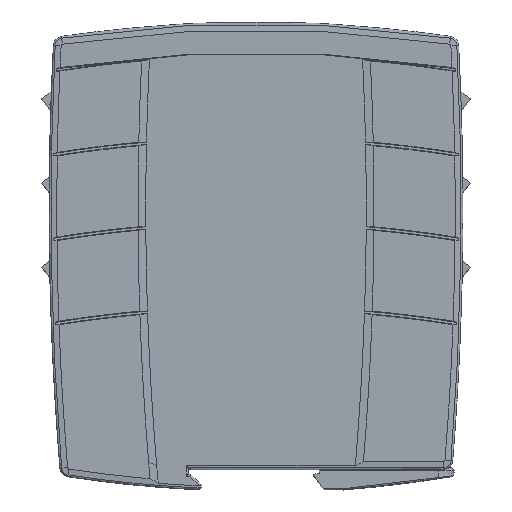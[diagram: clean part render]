
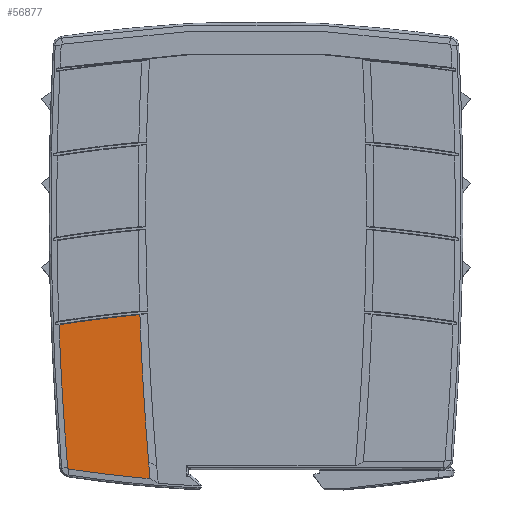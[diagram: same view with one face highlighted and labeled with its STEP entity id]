
A CAD part, top view. The second image highlights one B-rep face of the part: STEP entity #56877.
In plain terms, the highlighted planar face has unit normal (0, 0, 1).
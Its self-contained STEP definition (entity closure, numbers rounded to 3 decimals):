
#126=ELLIPSE('',#60365,780.372,777.);
#129=ELLIPSE('',#60370,780.372,777.);
#131=ELLIPSE('',#60373,324.402,323.);
#190=ELLIPSE('',#60461,332.688,331.25);
#191=ELLIPSE('',#60463,801.463,798.);
#192=ELLIPSE('',#60464,0.402,0.4);
#6280=FACE_OUTER_BOUND('',#9317,.T.);
#9317=EDGE_LOOP('',(#45416,#45417,#45418,#45419,#45420,#45421));
#27227=VERTEX_POINT('',#88247);
#27229=VERTEX_POINT('',#88250);
#27232=VERTEX_POINT('',#88263);
#27233=VERTEX_POINT('',#88268);
#27285=VERTEX_POINT('',#88583);
#27286=VERTEX_POINT('',#88587);
#33762=EDGE_CURVE('',#27229,#27227,#126,.T.);
#33767=EDGE_CURVE('',#27227,#27232,#129,.T.);
#33769=EDGE_CURVE('',#27229,#27233,#131,.T.);
#33862=EDGE_CURVE('',#27285,#27232,#190,.T.);
#33863=EDGE_CURVE('',#27286,#27285,#191,.T.);
#33864=EDGE_CURVE('',#27233,#27286,#192,.T.);
#45416=ORIENTED_EDGE('',*,*,#33767,.T.);
#45417=ORIENTED_EDGE('',*,*,#33862,.F.);
#45418=ORIENTED_EDGE('',*,*,#33863,.F.);
#45419=ORIENTED_EDGE('',*,*,#33864,.F.);
#45420=ORIENTED_EDGE('',*,*,#33769,.F.);
#45421=ORIENTED_EDGE('',*,*,#33762,.T.);
#54282=PLANE('',#60462);
#56877=ADVANCED_FACE('',(#6280),#54282,.T.);
#60365=AXIS2_PLACEMENT_3D('',#88251,#70082,#70083);
#60370=AXIS2_PLACEMENT_3D('',#88265,#70092,#70093);
#60373=AXIS2_PLACEMENT_3D('',#88269,#70098,#70099);
#60461=AXIS2_PLACEMENT_3D('',#88585,#70291,#70292);
#60462=AXIS2_PLACEMENT_3D('',#88586,#70293,#70294);
#60463=AXIS2_PLACEMENT_3D('',#88588,#70295,#70296);
#60464=AXIS2_PLACEMENT_3D('',#88589,#70297,#70298);
#70082=DIRECTION('center_axis',(0.,0.,
-1.));
#70083=DIRECTION('ref_axis',(0.,1.,0.));
#70092=DIRECTION('center_axis',(0.,0.,
-1.));
#70093=DIRECTION('ref_axis',(0.,1.,0.));
#70098=DIRECTION('center_axis',(0.,0.,
-1.));
#70099=DIRECTION('ref_axis',(0.,1.,0.));
#70291=DIRECTION('center_axis',(0.,0.,
-1.));
#70292=DIRECTION('ref_axis',(0.,1.,0.));
#70293=DIRECTION('center_axis',(0.,0.,
1.));
#70294=DIRECTION('ref_axis',(1.,0.,0.));
#70295=DIRECTION('center_axis',(0.,0.,
-1.));
#70296=DIRECTION('ref_axis',(0.,1.,0.));
#70297=DIRECTION('center_axis',(0.,0.,
-1.));
#70298=DIRECTION('ref_axis',(0.,1.,0.));
#88247=CARTESIAN_POINT('',(-27.778,2.009,8.9));
#88250=CARTESIAN_POINT('',(-27.4,-2.35,8.9));
#88251=CARTESIAN_POINT('Origin',(746.49,67.399,8.9));
#88263=CARTESIAN_POINT('',(-30.034,40.067,8.9));
#88265=CARTESIAN_POINT('Origin',(746.49,67.399,8.9));
#88268=CARTESIAN_POINT('',(-48.387,0.141,8.9));
#88269=CARTESIAN_POINT('Origin',(0.,320.882,
8.9));
#88583=CARTESIAN_POINT('',(-50.954,37.478,8.9));
#88585=CARTESIAN_POINT('Origin',(0.,-291.251,8.9));
#88586=CARTESIAN_POINT('Origin',(-25.727,57.345,8.9));
#88587=CARTESIAN_POINT('',(-48.726,0.505,8.9));
#88588=CARTESIAN_POINT('Origin',(746.49,67.399,8.9));
#88589=CARTESIAN_POINT('Origin',(-48.327,0.538,8.9));
